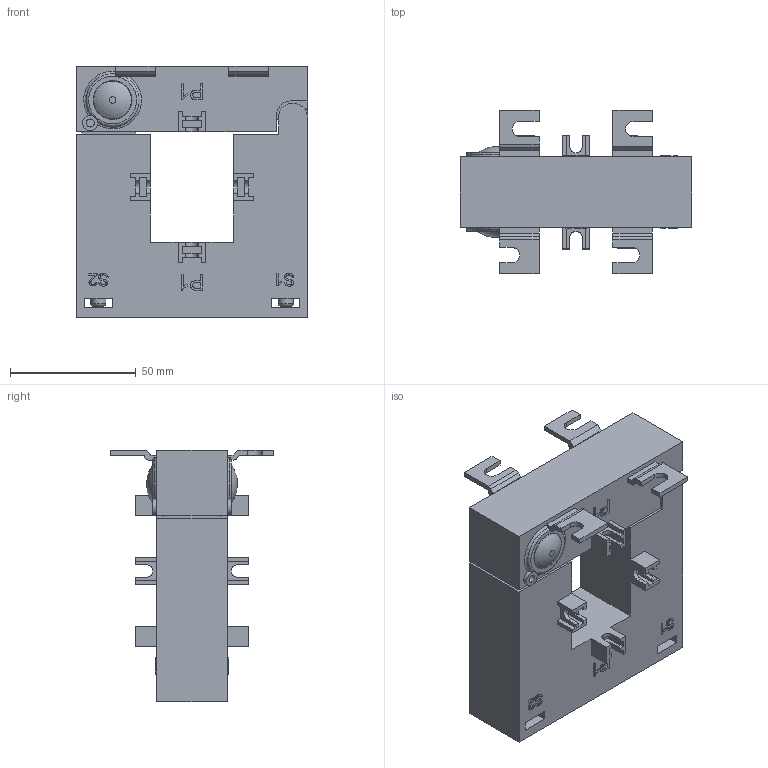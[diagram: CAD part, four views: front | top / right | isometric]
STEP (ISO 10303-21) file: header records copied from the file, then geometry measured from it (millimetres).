
FILE_DESCRIPTION(/* description */ ('Unknown'),/* implementation_level */ '2;1');
FILE_NAME(/* name */ 'HX0156',/* time_stamp */ '2025-07-20T09:53:35+03:00',/* author */ ('Unknown'),/* organization */ ('Unknown'),/* preprocessor_version */ 'ST-DEVELOPER v16.7',/* originating_system */ 'Solid Edge',/* authorisation */ 'Unknown');
FILE_SCHEMA (('AUTOMOTIVE_DESIGN {1 0 10303 214 3 1 1}'));
Length unit declared in the file: millimetre
Products named in the file (1): HX0156
Bounding box: 92 x 65 x 100 mm (x, y, z)
Volume: 217448.7 mm3; surface area: 41937.2 mm2
Topology: 1 solids, 1 shells, 476 faces, 1302 edges, 870 vertices
Faces by surface type: plane 382, cylinder 49, bspline 32, torus 13
Full cylindrical faces by diameter (mm): 3.2 x2, 6 x6, 6.9 x4, 15 x2, 15.4 x2
Entity records: 20938 total; most frequent: CARTESIAN_POINT 6044, ORIENTED_EDGE 2524, DIRECTION 2065, EDGE_CURVE 1262, LINE 947, VECTOR 947, VERTEX_POINT 854, AXIS2_PLACEMENT_3D 559
